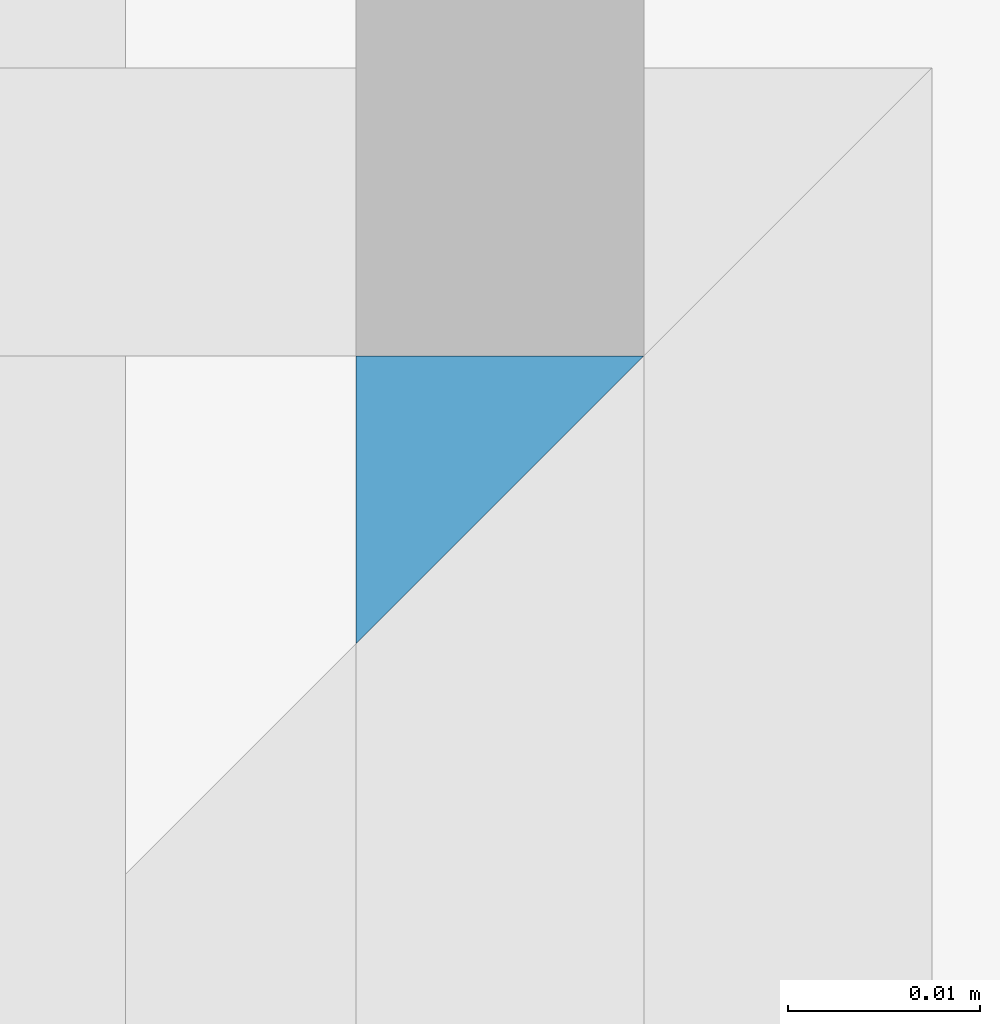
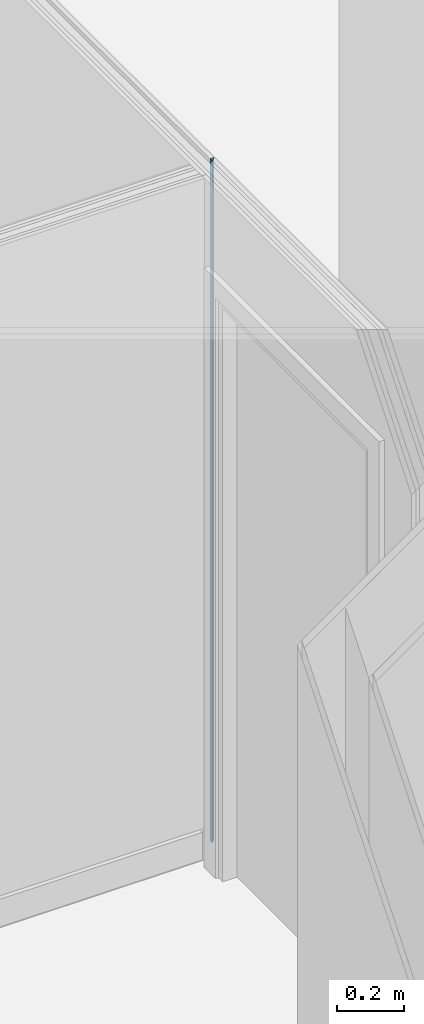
# One storey, part 30 of 169: 1 building element part, 1 element without a shape of its own.
"""IFC2X3 building model written with IfcOpenShell, lengths in metres."""

from ifc_helpers import new_model, entity, si_unit, converted_unit, derived_unit, money_unit, direction, frame, origin_with_axes, place, context, subcontext, project, spatial, polyline, outline, extrude, material, type_object, element, aggregate, save


model = new_model("IFC2X3")

# Units and contexts
model_context = context("Model", 3, precision=1e-05, world=origin_with_axes(), true_north=direction((0.0, 1.0)))
body_context = subcontext(model_context, "Body", "Model", "MODEL_VIEW", scale=1.0)
ifc_project = project(units=[si_unit("LENGTHUNIT", "METRE"), si_unit("AREAUNIT", "SQUARE_METRE"), si_unit("VOLUMEUNIT", "CUBIC_METRE"), si_unit("ABSORBEDDOSEUNIT", "GRAY"), si_unit("AMOUNTOFSUBSTANCEUNIT", "MOLE"), si_unit("DOSEEQUIVALENTUNIT", "SIEVERT"), si_unit("ELECTRICCAPACITANCEUNIT", "FARAD"), si_unit("ELECTRICCHARGEUNIT", "COULOMB"), si_unit("ELECTRICCONDUCTANCEUNIT", "SIEMENS"), si_unit("ELECTRICCURRENTUNIT", "AMPERE"), si_unit("ELECTRICRESISTANCEUNIT", "OHM"), si_unit("ELECTRICVOLTAGEUNIT", "VOLT"), si_unit("ENERGYUNIT", "JOULE"), si_unit("FORCEUNIT", "NEWTON"), si_unit("FREQUENCYUNIT", "HERTZ"), si_unit("ILLUMINANCEUNIT", "LUX"), si_unit("INDUCTANCEUNIT", "HENRY"), si_unit("LUMINOUSFLUXUNIT", "LUMEN"), si_unit("LUMINOUSINTENSITYUNIT", "CANDELA"), si_unit("MAGNETICFLUXDENSITYUNIT", "TESLA"), si_unit("MAGNETICFLUXUNIT", "WEBER"), si_unit("MASSUNIT", "GRAM"), converted_unit("PLANEANGLEUNIT", "degree", entity("IfcReal", 0.0174532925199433), si_unit("PLANEANGLEUNIT", "RADIAN"), dimensions=[0, 0, 0, 0, 0, 0, 0]), si_unit("POWERUNIT", "WATT"), si_unit("PRESSUREUNIT", "PASCAL"), si_unit("RADIOACTIVITYUNIT", "BECQUEREL"), si_unit("SOLIDANGLEUNIT", "STERADIAN"), si_unit("THERMODYNAMICTEMPERATUREUNIT", "KELVIN"), si_unit("TIMEUNIT", "SECOND"), derived_unit("ACCELERATIONUNIT", [(si_unit("LENGTHUNIT", "METRE"), 1), (si_unit("TIMEUNIT", "SECOND"), -2)]), derived_unit("ANGULARVELOCITYUNIT", [(converted_unit("PLANEANGLEUNIT", "degree", entity("IfcReal", 0.0174532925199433), si_unit("PLANEANGLEUNIT", "RADIAN"), dimensions=[0, 0, 0, 0, 0, 0, 0]), 1), (si_unit("TIMEUNIT", "SECOND"), -1)]), derived_unit("CURVATUREUNIT", [(converted_unit("PLANEANGLEUNIT", "degree", entity("IfcReal", 0.0174532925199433), si_unit("PLANEANGLEUNIT", "RADIAN"), dimensions=[0, 0, 0, 0, 0, 0, 0]), 1), (si_unit("LENGTHUNIT", "METRE"), -1)]), derived_unit("DYNAMICVISCOSITYUNIT", [(si_unit("PRESSUREUNIT", "PASCAL"), 1), (si_unit("TIMEUNIT", "SECOND"), 1)]), derived_unit("HEATFLUXDENSITYUNIT", [(si_unit("POWERUNIT", "WATT"), 1), (si_unit("LENGTHUNIT", "METRE"), -2)]), derived_unit("HEATINGVALUEUNIT", [(si_unit("ENERGYUNIT", "JOULE"), 1), (si_unit("MASSUNIT", "GRAM"), -1)]), derived_unit("INTEGERCOUNTRATEUNIT", [(si_unit("TIMEUNIT", "SECOND"), -1)]), derived_unit("IONCONCENTRATIONUNIT", [(si_unit("MASSUNIT", "GRAM"), 1), (si_unit("VOLUMEUNIT", "CUBIC_METRE"), -1)]), derived_unit("ISOTHERMALMOISTURECAPACITYUNIT", [(si_unit("VOLUMEUNIT", "CUBIC_METRE"), 1), (si_unit("MASSUNIT", "GRAM"), -1)]), derived_unit("KINEMATICVISCOSITYUNIT", [(si_unit("AREAUNIT", "SQUARE_METRE"), 1), (si_unit("TIMEUNIT", "SECOND"), -1)]), derived_unit("LINEARFORCEUNIT", [(si_unit("FORCEUNIT", "NEWTON"), 1), (si_unit("LENGTHUNIT", "METRE"), -1)]), derived_unit("LINEARMOMENTUNIT", [(si_unit("FORCEUNIT", "NEWTON"), 1), (si_unit("LENGTHUNIT", "METRE"), -1)]), derived_unit("LINEARSTIFFNESSUNIT", [(si_unit("FORCEUNIT", "NEWTON"), 1), (si_unit("LENGTHUNIT", "METRE"), -1)]), derived_unit("LINEARVELOCITYUNIT", [(si_unit("LENGTHUNIT", "METRE"), 1), (si_unit("TIMEUNIT", "SECOND"), -1)]), derived_unit("LUMINOUSINTENSITYDISTRIBUTIONUNIT", [(si_unit("LUMINOUSINTENSITYUNIT", "CANDELA"), 1), (si_unit("LUMINOUSFLUXUNIT", "LUMEN"), -1)]), derived_unit("MASSDENSITYUNIT", [(si_unit("MASSUNIT", "GRAM"), 1), (si_unit("VOLUMEUNIT", "CUBIC_METRE"), -1)]), derived_unit("MASSFLOWRATEUNIT", [(si_unit("MASSUNIT", "GRAM"), 1), (si_unit("TIMEUNIT", "SECOND"), -1)]), derived_unit("MASSPERLENGTHUNIT", [(si_unit("MASSUNIT", "GRAM"), 1), (si_unit("LENGTHUNIT", "METRE"), -1)]), derived_unit("MODULUSOFELASTICITYUNIT", [(si_unit("FORCEUNIT", "NEWTON"), 1), (si_unit("AREAUNIT", "SQUARE_METRE"), -1)]), derived_unit("MODULUSOFLINEARSUBGRADEREACTIONUNIT", [(si_unit("FORCEUNIT", "NEWTON"), 1), (si_unit("LENGTHUNIT", "METRE"), -2)]), derived_unit("MODULUSOFROTATIONALSUBGRADEREACTIONUNIT", [(si_unit("FORCEUNIT", "NEWTON"), 1), (si_unit("LENGTHUNIT", "METRE"), 1)]), derived_unit("MODULUSOFSUBGRADEREACTIONUNIT", [(si_unit("FORCEUNIT", "NEWTON"), 1), (si_unit("VOLUMEUNIT", "CUBIC_METRE"), -1)]), derived_unit("MOISTUREDIFFUSIVITYUNIT", [(si_unit("VOLUMEUNIT", "CUBIC_METRE"), 1), (si_unit("TIMEUNIT", "SECOND"), -1)]), derived_unit("MOLECULARWEIGHTUNIT", [(si_unit("MASSUNIT", "GRAM"), 1), (si_unit("AMOUNTOFSUBSTANCEUNIT", "MOLE"), -1)]), derived_unit("PLANARFORCEUNIT", [(si_unit("FORCEUNIT", "NEWTON"), 1), (si_unit("LENGTHUNIT", "METRE"), -2)]), derived_unit("ROTATIONALFREQUENCYUNIT", [(si_unit("TIMEUNIT", "SECOND"), -1)]), derived_unit("ROTATIONALMASSUNIT", [(si_unit("MASSUNIT", "GRAM"), 1), (si_unit("LENGTHUNIT", "METRE"), 2)]), derived_unit("ROTATIONALSTIFFNESSUNIT", [(si_unit("FORCEUNIT", "NEWTON"), 1), (si_unit("LENGTHUNIT", "METRE"), 1), (converted_unit("PLANEANGLEUNIT", "degree", entity("IfcReal", 0.0174532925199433), si_unit("PLANEANGLEUNIT", "RADIAN"), dimensions=[0, 0, 0, 0, 0, 0, 0]), -1)]), derived_unit("SECTIONAREAINTEGRALUNIT", [(si_unit("LENGTHUNIT", "METRE"), 5)]), derived_unit("SECTIONMODULUSUNIT", [(si_unit("LENGTHUNIT", "METRE"), 3)]), derived_unit("SHEARMODULUSUNIT", [(si_unit("FORCEUNIT", "NEWTON"), 1), (si_unit("AREAUNIT", "SQUARE_METRE"), -1)]), derived_unit("SOUNDPOWERUNIT", [(si_unit("ENERGYUNIT", "JOULE"), 1), (si_unit("TIMEUNIT", "SECOND"), -1)]), derived_unit("SPECIFICHEATCAPACITYUNIT", [(si_unit("FORCEUNIT", "NEWTON"), 1), (si_unit("MASSUNIT", "GRAM"), -1), (si_unit("THERMODYNAMICTEMPERATUREUNIT", "KELVIN"), -1)]), derived_unit("TEMPERATUREGRADIENTUNIT", [(si_unit("THERMODYNAMICTEMPERATUREUNIT", "KELVIN"), 1), (si_unit("LENGTHUNIT", "METRE"), -1)]), derived_unit("THERMALADMITTANCEUNIT", [(si_unit("POWERUNIT", "WATT"), 1), (si_unit("AREAUNIT", "SQUARE_METRE"), -1), (si_unit("THERMODYNAMICTEMPERATUREUNIT", "KELVIN"), -1)]), derived_unit("THERMALCONDUCTANCEUNIT", [(si_unit("POWERUNIT", "WATT"), 1), (si_unit("LENGTHUNIT", "METRE"), -1), (si_unit("THERMODYNAMICTEMPERATUREUNIT", "KELVIN"), -1)]), derived_unit("THERMALEXPANSIONCOEFFICIENTUNIT", [(si_unit("THERMODYNAMICTEMPERATUREUNIT", "KELVIN"), -1)]), derived_unit("THERMALRESISTANCEUNIT", [(si_unit("AREAUNIT", "SQUARE_METRE"), 1), (si_unit("POWERUNIT", "WATT"), -1)]), derived_unit("THERMALTRANSMITTANCEUNIT", [(si_unit("POWERUNIT", "WATT"), 1), (si_unit("AREAUNIT", "SQUARE_METRE"), -1), (si_unit("THERMODYNAMICTEMPERATUREUNIT", "KELVIN"), -1)]), derived_unit("TORQUEUNIT", [(si_unit("FORCEUNIT", "NEWTON"), 1), (si_unit("LENGTHUNIT", "METRE"), 1)]), derived_unit("VAPORPERMEABILITYUNIT", [(si_unit("MASSUNIT", "GRAM"), 1), (si_unit("TIMEUNIT", "SECOND"), -1)]), derived_unit("VOLUMETRICFLOWRATEUNIT", [(si_unit("VOLUMEUNIT", "CUBIC_METRE"), 1), (si_unit("TIMEUNIT", "SECOND"), -1)]), derived_unit("WARPINGCONSTANTUNIT", [(si_unit("LENGTHUNIT", "METRE"), 6)]), derived_unit("WARPINGMOMENTUNIT", [(si_unit("FORCEUNIT", "NEWTON"), 1), (si_unit("LENGTHUNIT", "METRE"), 2)]), money_unit("GBP")], contexts=[model_context])

# Site, building, storey
site_placement = place(None, origin_with_axes())
site = spatial("IfcSite", under=ifc_project, at=site_placement, Name="Site", CompositionType="ELEMENT")
building_placement = place(site_placement, origin_with_axes())
building = spatial("IfcBuilding", under=site, at=building_placement, Name="Building01", CompositionType="ELEMENT")
storey_placement = place(building_placement, frame((0.0, 0.0, 5.15), z_axis=(0.0, 0.0, 1.0), x_axis=(1.0, 0.0, 0.0)))
storey = spatial("IfcBuildingStorey", under=building, at=storey_placement, Name="1F", CompositionType="ELEMENT", Elevation=5.15)

# Wall, building element part
wall_type = type_object("IfcWallType", Name="SHE_A-Walls_Type05b_Partition_80mm", PredefinedType="NOTDEFINED")
wall_placement = place(storey_placement, frame((2.872, 10.126939, 9.83), z_axis=(0.0, 0.0, 1.0), x_axis=(1.0, 0.0, 0.0)))
wall = element("IfcWall", 1, at=wall_placement, inside=storey, type_object=wall_type, Name="5B", ObjectType="SHE_A-Walls_Type05b_Partition_80mm")
ifc_material = material(Name="A_BSUK_WallInternal_Finishes_Plasterboard")
building_element_part_placement = place(wall_placement, origin_with_axes())
building_element_part = element("IfcBuildingElementPart", 2, at=building_element_part_placement, material=ifc_material, Name="11", context=body_context, shape_type="SweptSolid", body=[
    extrude(outline(polyline([(6.688024, 0.053), (6.673024, 0.053), (6.673024, 0.038), (6.688024, 0.053)])), origin_with_axes(), (0.0, 0.0, 1.0), 2.468),
])
aggregate(wall, [building_element_part])

save(model, "model.ifc")
